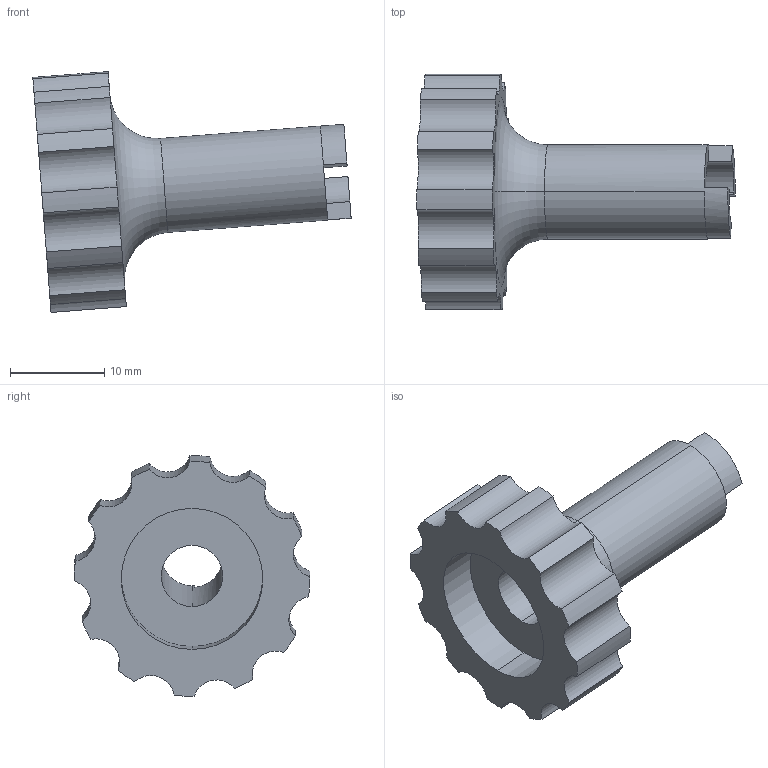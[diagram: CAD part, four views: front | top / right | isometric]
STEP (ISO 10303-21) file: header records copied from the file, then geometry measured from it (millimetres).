
FILE_DESCRIPTION((''),'2;1');
FILE_NAME('0000237085_PRT','2025-11-12T18:35:34',('Wyndorps'),(''),'CREO PARAMETRIC BY PTC INC, 2025010','CREO PARAMETRIC BY PTC INC, 2025010','');
FILE_SCHEMA(('CONFIG_CONTROL_DESIGN'));
Length unit declared in the file: millimetre
Products named in the file (1): 0000237085_PRT
Bounding box: 33.75 x 25 x 25.54 mm (x, y, z)
Volume: 3898.5 mm3; surface area: 2956.1 mm2
Topology: 1 solids, 1 shells, 43 faces, 118 edges, 78 vertices
Faces by surface type: cylinder 30, plane 11, torus 2
Entity records: 1450 total; most frequent: DIRECTION 276, CARTESIAN_POINT 239, ORIENTED_EDGE 236, EDGE_CURVE 118, AXIS2_PLACEMENT_3D 115, VERTEX_POINT 78, CIRCLE 72, VECTOR 46
